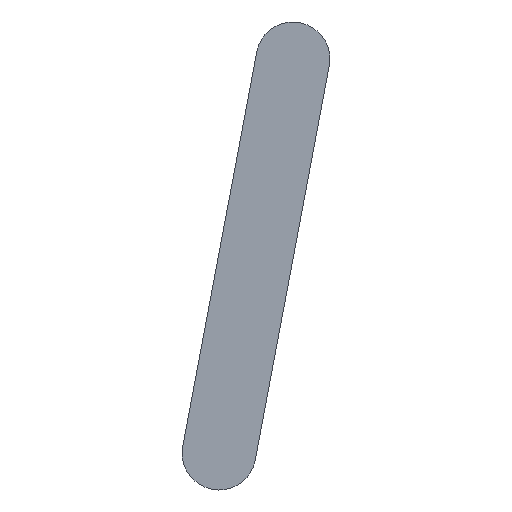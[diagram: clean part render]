
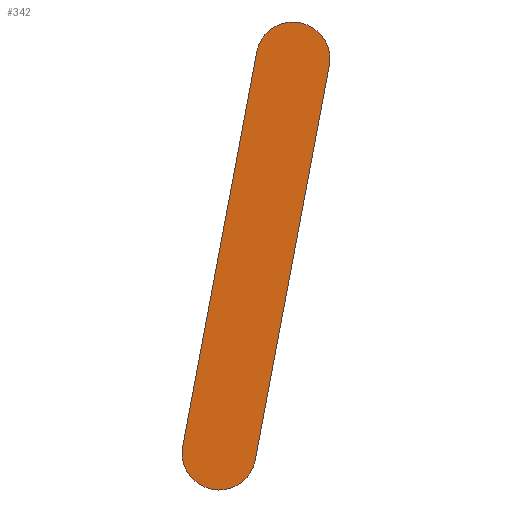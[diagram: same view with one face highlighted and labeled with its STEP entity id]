
A CAD part, front view. The second image highlights one B-rep face of the part: STEP entity #342.
In plain terms, the highlighted planar face has unit normal (0, -1, 0).
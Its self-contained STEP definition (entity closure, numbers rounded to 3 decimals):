
#24 = VERTEX_POINT('',#25);
#25 = CARTESIAN_POINT('',(-11.794,-21.5,2.211));
#32 = PLANE('',#33);
#33 = AXIS2_PLACEMENT_3D('',#34,#35,#36);
#34 = CARTESIAN_POINT('',(-11.794,-18.5,2.211));
#35 = DIRECTION('',(-0.983,0.,0.184));
#36 = DIRECTION('',(0.184,0.,0.983));
#44 = CYLINDRICAL_SURFACE('',#45,12.);
#45 = AXIS2_PLACEMENT_3D('',#46,#47,#48);
#46 = CARTESIAN_POINT('',(0.,-18.5,0.));
#47 = DIRECTION('',(0.,1.,0.));
#48 = DIRECTION('',(0.983,0.,-0.184));
#56 = EDGE_CURVE('',#24,#57,#59,.T.);
#57 = VERTEX_POINT('',#58);
#58 = CARTESIAN_POINT('',(12.206,-21.5,130.211));
#59 = SURFACE_CURVE('',#60,(#64,#71),.PCURVE_S1.);
#60 = LINE('',#61,#62);
#61 = CARTESIAN_POINT('',(-11.794,-21.5,2.211));
#62 = VECTOR('',#63,1.);
#63 = DIRECTION('',(0.184,0.,0.983));
#64 = PCURVE('',#32,#65);
#65 = DEFINITIONAL_REPRESENTATION('',(#66),#70);
#66 = LINE('',#67,#68);
#67 = CARTESIAN_POINT('',(0.,-3.));
#68 = VECTOR('',#69,1.);
#69 = DIRECTION('',(1.,0.));
#70 = ( GEOMETRIC_REPRESENTATION_CONTEXT(2) 
PARAMETRIC_REPRESENTATION_CONTEXT() REPRESENTATION_CONTEXT('2D SPACE',''
  ) );
#71 = PCURVE('',#72,#77);
#72 = PLANE('',#73);
#73 = AXIS2_PLACEMENT_3D('',#74,#75,#76);
#74 = CARTESIAN_POINT('',(12.,-21.5,64.));
#75 = DIRECTION('',(0.,1.,0.));
#76 = DIRECTION('',(0.,-0.,1.));
#77 = DEFINITIONAL_REPRESENTATION('',(#78),#82);
#78 = LINE('',#79,#80);
#79 = CARTESIAN_POINT('',(-61.789,-23.794));
#80 = VECTOR('',#81,1.);
#81 = DIRECTION('',(0.983,0.184));
#82 = ( GEOMETRIC_REPRESENTATION_CONTEXT(2) 
PARAMETRIC_REPRESENTATION_CONTEXT() REPRESENTATION_CONTEXT('2D SPACE',''
  ) );
#100 = CYLINDRICAL_SURFACE('',#101,12.);
#101 = AXIS2_PLACEMENT_3D('',#102,#103,#104);
#102 = CARTESIAN_POINT('',(24.,-18.5,128.));
#103 = DIRECTION('',(0.,1.,-0.));
#104 = DIRECTION('',(-0.983,0.,0.184));
#142 = EDGE_CURVE('',#57,#143,#145,.T.);
#143 = VERTEX_POINT('',#144);
#144 = CARTESIAN_POINT('',(35.794,-21.5,125.789));
#145 = SURFACE_CURVE('',#146,(#151,#158),.PCURVE_S1.);
#146 = CIRCLE('',#147,12.);
#147 = AXIS2_PLACEMENT_3D('',#148,#149,#150);
#148 = CARTESIAN_POINT('',(24.,-21.5,128.));
#149 = DIRECTION('',(0.,1.,-0.));
#150 = DIRECTION('',(-0.983,0.,0.184));
#151 = PCURVE('',#100,#152);
#152 = DEFINITIONAL_REPRESENTATION('',(#153),#157);
#153 = LINE('',#154,#155);
#154 = CARTESIAN_POINT('',(0.,-3.));
#155 = VECTOR('',#156,1.);
#156 = DIRECTION('',(1.,0.));
#157 = ( GEOMETRIC_REPRESENTATION_CONTEXT(2) 
PARAMETRIC_REPRESENTATION_CONTEXT() REPRESENTATION_CONTEXT('2D SPACE',''
  ) );
#158 = PCURVE('',#72,#159);
#159 = DEFINITIONAL_REPRESENTATION('',(#160),#164);
#160 = CIRCLE('',#161,12.);
#161 = AXIS2_PLACEMENT_2D('',#162,#163);
#162 = CARTESIAN_POINT('',(64.,12.));
#163 = DIRECTION('',(0.184,-0.983));
#164 = ( GEOMETRIC_REPRESENTATION_CONTEXT(2) 
PARAMETRIC_REPRESENTATION_CONTEXT() REPRESENTATION_CONTEXT('2D SPACE',''
  ) );
#182 = PLANE('',#183);
#183 = AXIS2_PLACEMENT_3D('',#184,#185,#186);
#184 = CARTESIAN_POINT('',(35.794,-18.5,125.789));
#185 = DIRECTION('',(0.983,0.,-0.184));
#186 = DIRECTION('',(-0.184,-0.,-0.983));
#220 = EDGE_CURVE('',#143,#221,#223,.T.);
#221 = VERTEX_POINT('',#222);
#222 = CARTESIAN_POINT('',(11.794,-21.5,-2.211));
#223 = SURFACE_CURVE('',#224,(#228,#235),.PCURVE_S1.);
#224 = LINE('',#225,#226);
#225 = CARTESIAN_POINT('',(35.794,-21.5,125.789));
#226 = VECTOR('',#227,1.);
#227 = DIRECTION('',(-0.184,-0.,-0.983));
#228 = PCURVE('',#182,#229);
#229 = DEFINITIONAL_REPRESENTATION('',(#230),#234);
#230 = LINE('',#231,#232);
#231 = CARTESIAN_POINT('',(0.,-3.));
#232 = VECTOR('',#233,1.);
#233 = DIRECTION('',(1.,0.));
#234 = ( GEOMETRIC_REPRESENTATION_CONTEXT(2) 
PARAMETRIC_REPRESENTATION_CONTEXT() REPRESENTATION_CONTEXT('2D SPACE',''
  ) );
#235 = PCURVE('',#72,#236);
#236 = DEFINITIONAL_REPRESENTATION('',(#237),#241);
#237 = LINE('',#238,#239);
#238 = CARTESIAN_POINT('',(61.789,23.794));
#239 = VECTOR('',#240,1.);
#240 = DIRECTION('',(-0.983,-0.184));
#241 = ( GEOMETRIC_REPRESENTATION_CONTEXT(2) 
PARAMETRIC_REPRESENTATION_CONTEXT() REPRESENTATION_CONTEXT('2D SPACE',''
  ) );
#291 = EDGE_CURVE('',#221,#24,#292,.T.);
#292 = SURFACE_CURVE('',#293,(#298,#305),.PCURVE_S1.);
#293 = CIRCLE('',#294,12.);
#294 = AXIS2_PLACEMENT_3D('',#295,#296,#297);
#295 = CARTESIAN_POINT('',(0.,-21.5,0.));
#296 = DIRECTION('',(0.,1.,0.));
#297 = DIRECTION('',(0.983,0.,-0.184));
#298 = PCURVE('',#44,#299);
#299 = DEFINITIONAL_REPRESENTATION('',(#300),#304);
#300 = LINE('',#301,#302);
#301 = CARTESIAN_POINT('',(0.,-3.));
#302 = VECTOR('',#303,1.);
#303 = DIRECTION('',(1.,0.));
#304 = ( GEOMETRIC_REPRESENTATION_CONTEXT(2) 
PARAMETRIC_REPRESENTATION_CONTEXT() REPRESENTATION_CONTEXT('2D SPACE',''
  ) );
#305 = PCURVE('',#72,#306);
#306 = DEFINITIONAL_REPRESENTATION('',(#307),#311);
#307 = CIRCLE('',#308,12.);
#308 = AXIS2_PLACEMENT_2D('',#309,#310);
#309 = CARTESIAN_POINT('',(-64.,-12.));
#310 = DIRECTION('',(-0.184,0.983));
#311 = ( GEOMETRIC_REPRESENTATION_CONTEXT(2) 
PARAMETRIC_REPRESENTATION_CONTEXT() REPRESENTATION_CONTEXT('2D SPACE',''
  ) );
#342 = ADVANCED_FACE('',(#343),#72,.F.);
#343 = FACE_BOUND('',#344,.F.);
#344 = EDGE_LOOP('',(#345,#346,#347,#348));
#345 = ORIENTED_EDGE('',*,*,#56,.T.);
#346 = ORIENTED_EDGE('',*,*,#142,.T.);
#347 = ORIENTED_EDGE('',*,*,#220,.T.);
#348 = ORIENTED_EDGE('',*,*,#291,.T.);
